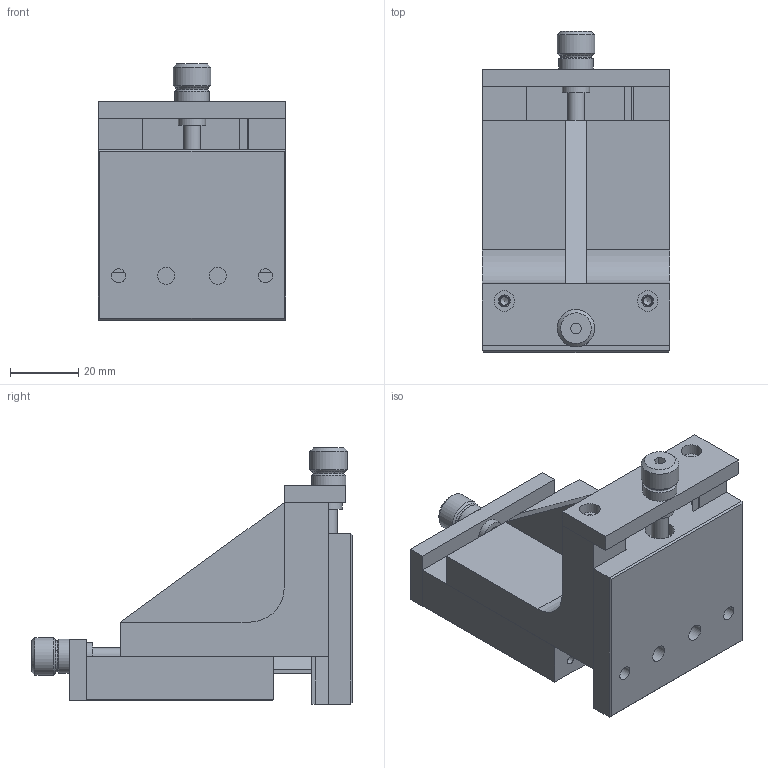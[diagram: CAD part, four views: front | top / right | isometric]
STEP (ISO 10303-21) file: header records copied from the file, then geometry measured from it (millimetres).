
FILE_DESCRIPTION((''),'2;1');
FILE_NAME('D:\Temp\B&G\AS131058(WinkelkulisseTYPD55).stp','2012-04-18T10:06:46',('mr'),(''),'Autodesk Inventor 2012','Autodesk Inventor 2012','');
FILE_SCHEMA(('AUTOMOTIVE_DESIGN { 1 0 10303 214 1 1 1 1 }'));
Length unit declared in the file: millimetre
Products named in the file (11): [AS131058]Winkellkulisse; []Unterteil; []40287000; []GEWINDESTIFT; []40366200; []40366400; []40286500; []40279700; []40289200; []Oberteil
Assembly tree (19 placements, depth 2):
  [AS131058]Winkellkulisse
    []Unterteil
    []40287000
    []GEWINDESTIFT  x6
    []GEWINDESTIFT  x2
    []40366200
    []40366400  x2
    []40286500  x2
    []40279700  x2
    []40289200
    []Oberteil
Bounding box: 55 x 94 x 75.03 mm (x, y, z)
Volume: 130404.4 mm3; surface area: 50672.3 mm2
Topology: 27 solids, 35 shells, 322 faces, 721 edges, 476 vertices
Faces by surface type: plane 208, cylinder 80, cone 28, torus 6
Full cylindrical faces by diameter (mm): 2.387 x6, 2.5 x12, 3 x11, 3.141 x2, 3.4 x2, 3.5 x4, 4 x4, 4.134 x6, 4.2 x2, 4.5 x1, 5 x11, 6 x4, 8 x2, 8.3 x1, 8.5 x2, 10 x2, 11 x2
Entity records: 6308 total; most frequent: CARTESIAN_POINT 1505, DIRECTION 943, ORIENTED_EDGE 758, EDGE_CURVE 390, AXIS2_PLACEMENT_3D 347, EDGE_LOOP 325, VERTEX_POINT 297, VECTOR 249
